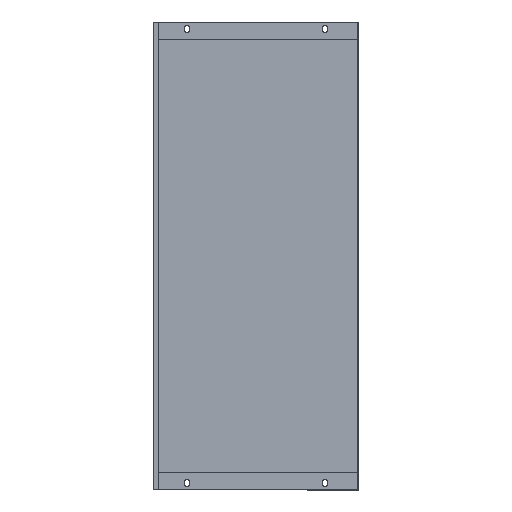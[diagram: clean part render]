
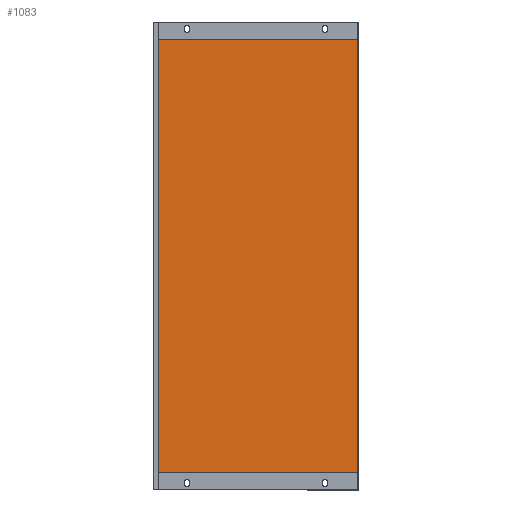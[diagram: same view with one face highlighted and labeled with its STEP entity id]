
A CAD part, front view. The second image highlights one B-rep face of the part: STEP entity #1083.
In plain terms, the highlighted planar face has unit normal (0, -1, 0).
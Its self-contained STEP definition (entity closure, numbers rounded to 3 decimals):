
#49 = VERTEX_POINT ( 'NONE', #618 ) ;
#90 = CARTESIAN_POINT ( 'NONE',  ( -6.6, 61.1, 654. ) ) ;
#105 = PLANE ( 'NONE',  #260 ) ;
#152 = CARTESIAN_POINT ( 'NONE',  ( 0., 61.1, 654. ) ) ;
#177 = VERTEX_POINT ( 'NONE', #1046 ) ;
#191 = DIRECTION ( 'NONE',  ( 0., 0., -1. ) ) ;
#203 = ORIENTED_EDGE ( 'NONE', *, *, #941, .T. ) ;
#211 = DIRECTION ( 'NONE',  ( 0., 1., 0. ) ) ;
#218 = CARTESIAN_POINT ( 'NONE',  ( -6.6, 61.1, 25. ) ) ;
#260 = AXIS2_PLACEMENT_3D ( 'NONE', #326, #211, #753 ) ;
#326 = CARTESIAN_POINT ( 'NONE',  ( -8., 61.1, 679. ) ) ;
#350 = EDGE_CURVE ( 'NONE', #1108, #49, #858, .T. ) ;
#448 = VECTOR ( 'NONE', #1198, 1000. ) ;
#513 = VECTOR ( 'NONE', #191, 1000. ) ;
#573 = EDGE_CURVE ( 'NONE', #177, #912, #1111, .T. ) ;
#618 = CARTESIAN_POINT ( 'NONE',  ( 288.6, 61.1, 25. ) ) ;
#624 = CARTESIAN_POINT ( 'NONE',  ( 0., 61.1, 25. ) ) ;
#658 = FACE_OUTER_BOUND ( 'NONE', #1093, .T. ) ;
#741 = LINE ( 'NONE', #980, #448 ) ;
#753 = DIRECTION ( 'NONE',  ( 0., 0., 1. ) ) ;
#858 = LINE ( 'NONE', #624, #1393 ) ;
#912 = VERTEX_POINT ( 'NONE', #90 ) ;
#916 = DIRECTION ( 'NONE',  ( -1., 0., 0. ) ) ;
#941 = EDGE_CURVE ( 'NONE', #912, #1108, #1141, .T. ) ;
#980 = CARTESIAN_POINT ( 'NONE',  ( 288.6, 61.1, 679. ) ) ;
#994 = ORIENTED_EDGE ( 'NONE', *, *, #1042, .F. ) ;
#1042 = EDGE_CURVE ( 'NONE', #177, #49, #741, .T. ) ;
#1046 = CARTESIAN_POINT ( 'NONE',  ( 288.6, 61.1, 654. ) ) ;
#1080 = DIRECTION ( 'NONE',  ( 1., 0., 0. ) ) ;
#1083 = ADVANCED_FACE ( 'NONE', ( #658 ), #105, .F. ) ;
#1093 = EDGE_LOOP ( 'NONE', ( #203, #1140, #994, #1231 ) ) ;
#1108 = VERTEX_POINT ( 'NONE', #218 ) ;
#1111 = LINE ( 'NONE', #152, #1254 ) ;
#1140 = ORIENTED_EDGE ( 'NONE', *, *, #350, .T. ) ;
#1141 = LINE ( 'NONE', #1375, #513 ) ;
#1198 = DIRECTION ( 'NONE',  ( 0., 0., -1. ) ) ;
#1231 = ORIENTED_EDGE ( 'NONE', *, *, #573, .T. ) ;
#1254 = VECTOR ( 'NONE', #916, 1000. ) ;
#1375 = CARTESIAN_POINT ( 'NONE',  ( -6.6, 61.1, 679. ) ) ;
#1393 = VECTOR ( 'NONE', #1080, 1000. ) ;
